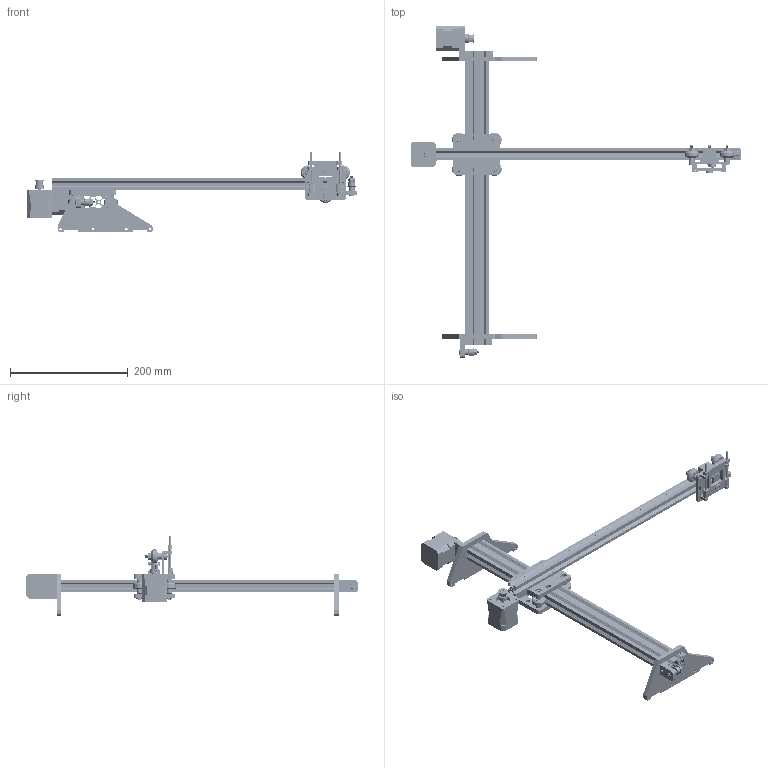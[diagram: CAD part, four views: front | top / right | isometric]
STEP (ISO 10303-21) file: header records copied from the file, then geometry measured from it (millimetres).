
FILE_DESCRIPTION(/* description */ (''),/* implementation_level */ '2;1');
FILE_NAME(/* name */ 'PLOTTER ASSEMBLY.step',/* time_stamp */ '2025-04-22T12:43:00+05:30',/* author */ (''),/* organization */ (''),/* preprocessor_version */ 'ST-DEVELOPER v20.1',/* originating_system */ 'Autodesk Translation Framework v14.4.0.0',/* authorisation */ '');
FILE_SCHEMA (('AUTOMOTIVE_DESIGN { 1 0 10303 214 3 1 1 }'));
Products named in the file (38): ASSEMBLY; Base Bottom; 20x40 V Slot Profile; Base top; NEMA 17 Stepper; Intersection Top; m5x40mm ( X direction); Solid V Wheel; Solid V Wheel_1; Solid V Wheel_2; Solid V Wheel_3; Intersection Bottom; X Motor Plate; Component1; 20x20 V Slot Profile; NEMA 17 Stepper_1; Motor; Shaft; 2D Plotter V2_GT2 20 Teeth pulley; X Pulley Plate; Idler Pulley; Pen Holder Base Plate; Pen Holder Z Plate; Shaft -3mm; SG90 - Micro Servo 9g - Tower Pro; SG90 - Micro Servo 9g - Tower Pro.1_Pea; SG90 - Micro Servo 9g - Tower Pro.2_Pea; SG90 - Micro Servo 9g - Tower Pro.6_BS EN ISO 7045 - M2 x 4 - Z - 4S; M5x30mm Bolt (x axis end pulley & y axis end ); Aluminium Spacer 6mm; Solid V Wheel_4; shim washer 1mm; Solid V Wheel_5; Solid V Wheel_6; 625 2RS Bearing (1); Wheel (1); Shim Washer (1); M5 Nyloc Nut
Assembly tree (104 placements, depth 3):
  ASSEMBLY
    Base Bottom
    20x40 V Slot Profile
    Base top
    NEMA 17 Stepper
      Motor
      Shaft
    2D Plotter V2_GT2 20 Teeth pulley  x2
    Aluminium Spacer 6mm  x12
    Idler Pulley  x2
    M5x30mm Bolt (x axis end pulley & y axis end )  x5
    M5 Nyloc Nut  x9
    Intersection Top
    m5x40mm ( X direction)  x4
    shim washer 1mm  x12
    Solid V Wheel
      625 2RS Bearing (1)  x2
      Wheel (1)
      Shim Washer (1)
    Solid V Wheel_1
      625 2RS Bearing (1)  x2
      Wheel (1)
      Shim Washer (1)
    Solid V Wheel_2
      625 2RS Bearing (1)  x2
      Wheel (1)
      Shim Washer (1)
    Solid V Wheel_3
      625 2RS Bearing (1)  x2
      Wheel (1)
      Shim Washer (1)
    Intersection Bottom
    X Motor Plate
      Component1
    20x20 V Slot Profile
    NEMA 17 Stepper_1
      Motor
      Shaft
    X Pulley Plate
    Pen Holder Base Plate
    Pen Holder Z Plate
    Shaft -3mm  x2
    SG90 - Micro Servo 9g - Tower Pro
      SG90 - Micro Servo 9g - Tower Pro.1_Pea
      SG90 - Micro Servo 9g - Tower Pro.2_Pea
      SG90 - Micro Servo 9g - Tower Pro.6_BS EN ISO 7045 - M2 x 4 - Z - 4S
    Solid V Wheel_4
      625 2RS Bearing (1)  x2
      Wheel (1)
      Shim Washer (1)
    Solid V Wheel_5
      625 2RS Bearing (1)  x2
      Wheel (1)
      Shim Washer (1)
    Solid V Wheel_6
      625 2RS Bearing (1)  x2
      Wheel (1)
      Shim Washer (1)
Bounding box: 560.96 x 564 x 136.42 mm (x, y, z)
Volume: 671627.8 mm3; surface area: 430205.5 mm2
Topology: 332 solids, 332 shells, 3862 faces, 10413 edges, 7071 vertices
Faces by surface type: cylinder 1740, plane 1445, cone 353, sphere 170, torus 86, bspline 68
Full cylindrical faces by diameter (mm): 0.2 x1, 0.5 x1, 1 x3, 1.2 x6, 1.6 x2, 1.8 x4, 2 x13, 2.1 x1, 2.4 x2, 2.529 x16, 3 x8, 3.2 x8, 3.3 x2, 3.7 x8, 3.961 x358, 4 x15, 4.2 x3, 4.4 x4, 4.6 x1, 4.701 x18, 4.75 x9, 5 x425, 5.2 x9, 5.3 x12, 6 x45, 6.9 x1, 7 x2, 7.4 x3, 8.5 x9, 9.533 x56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
Entity records: 92055 total; most frequent: CARTESIAN_POINT 39285, ORIENTED_EDGE 11266, DIRECTION 9906, EDGE_CURVE 5633, VERTEX_POINT 3998, LINE 3310, VECTOR 3310, AXIS2_PLACEMENT_3D 3298
